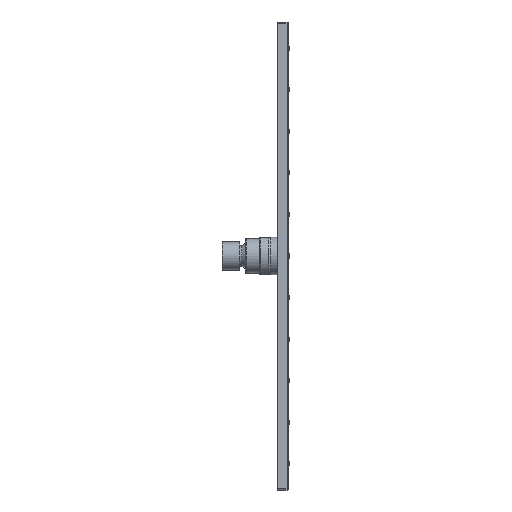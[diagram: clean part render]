
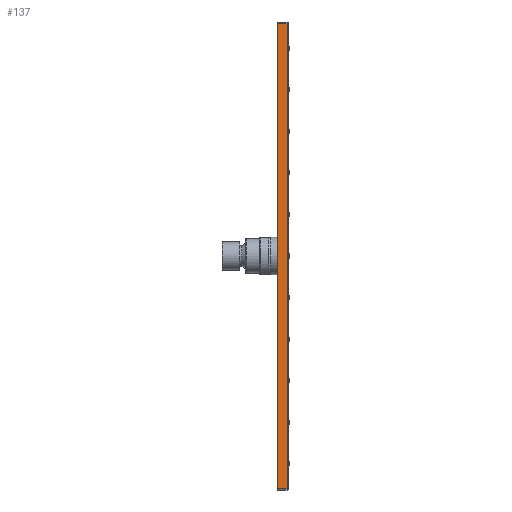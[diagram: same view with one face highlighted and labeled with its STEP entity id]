
A CAD part, left-side view. The second image highlights one B-rep face of the part: STEP entity #137.
In plain terms, the highlighted planar face has unit normal (-1, 0, 0).
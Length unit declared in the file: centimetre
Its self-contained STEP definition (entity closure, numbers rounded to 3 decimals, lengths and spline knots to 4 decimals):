
#137=ADVANCED_FACE('',(#1779),#19525,.T.);
#1779=FACE_OUTER_BOUND('',#3185,.T.);
#3185=EDGE_LOOP('',(#5075,#5076,#5077,#5078));
#5075=ORIENTED_EDGE('',*,*,#10099,.F.);
#5076=ORIENTED_EDGE('',*,*,#10104,.T.);
#5077=ORIENTED_EDGE('',*,*,#10103,.T.);
#5078=ORIENTED_EDGE('',*,*,#10102,.T.);
#10099=EDGE_CURVE('',#17401,#17402,#15467,.T.);
#10102=EDGE_CURVE('',#17403,#17402,#15468,.T.);
#10103=EDGE_CURVE('',#17404,#17403,#15469,.T.);
#10104=EDGE_CURVE('',#17401,#17404,#15470,.T.);
#15467=B_SPLINE_CURVE_WITH_KNOTS('',1,(#30419,#30420),.UNSPECIFIED.,.F.,
 .F.,(2,2),(-398.,0.),.UNSPECIFIED.);
#15468=B_SPLINE_CURVE_WITH_KNOTS('',1,(#30427,#30428),.UNSPECIFIED.,.F.,
 .F.,(2,2),(-8.,0.),.UNSPECIFIED.);
#15469=B_SPLINE_CURVE_WITH_KNOTS('',1,(#30429,#30430),.UNSPECIFIED.,.F.,
 .F.,(2,2),(-398.,0.),.UNSPECIFIED.);
#15470=B_SPLINE_CURVE_WITH_KNOTS('',1,(#30431,#30432),.UNSPECIFIED.,.F.,
 .F.,(2,2),(-8.,0.),.UNSPECIFIED.);
#17401=VERTEX_POINT('',#29069);
#17402=VERTEX_POINT('',#29070);
#17403=VERTEX_POINT('',#29071);
#17404=VERTEX_POINT('',#29072);
#19525=PLANE('',#20239);
#20239=AXIS2_PLACEMENT_3D('',#26709,#22821,$);
#22821=DIRECTION('',(-1.,0.,0.));
#26709=CARTESIAN_POINT('',(-20.,-0.0482,-23.9482));
#29069=CARTESIAN_POINT('',(-20.,0.1,19.9));
#29070=CARTESIAN_POINT('',(-20.,0.1,-19.9));
#29071=CARTESIAN_POINT('',(-20.,0.9,-19.9));
#29072=CARTESIAN_POINT('',(-20.,0.9,19.9));
#30419=CARTESIAN_POINT('',(-20.,0.1,19.9));
#30420=CARTESIAN_POINT('',(-20.,0.1,-19.9));
#30427=CARTESIAN_POINT('',(-20.,0.9,-19.9));
#30428=CARTESIAN_POINT('',(-20.,0.1,-19.9));
#30429=CARTESIAN_POINT('',(-20.,0.9,19.9));
#30430=CARTESIAN_POINT('',(-20.,0.9,-19.9));
#30431=CARTESIAN_POINT('',(-20.,0.1,19.9));
#30432=CARTESIAN_POINT('',(-20.,0.9,19.9));
